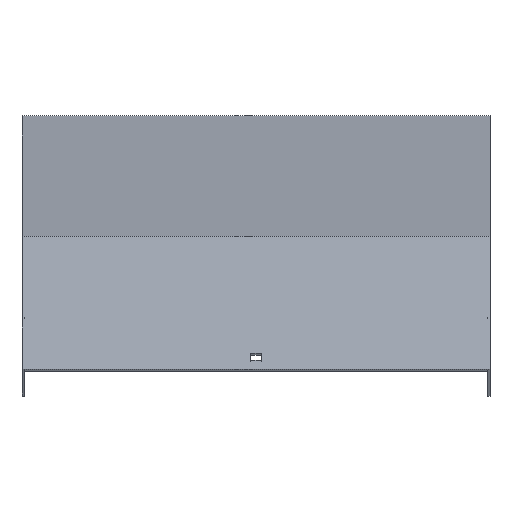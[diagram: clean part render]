
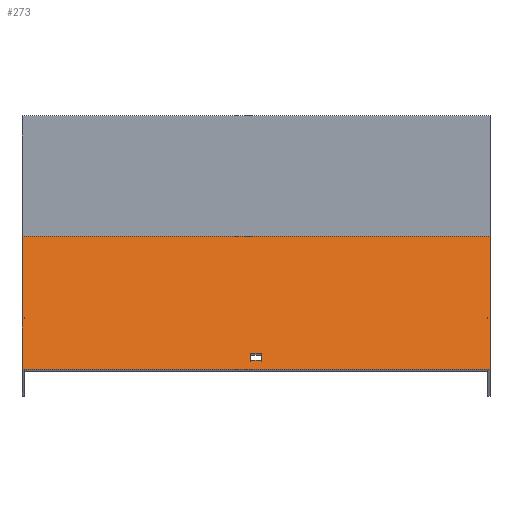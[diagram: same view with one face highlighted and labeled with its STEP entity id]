
A CAD part, top view. The second image highlights one B-rep face of the part: STEP entity #273.
In plain terms, the highlighted planar face has unit normal (0, 0.866, 0.5).
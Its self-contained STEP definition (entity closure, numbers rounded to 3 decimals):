
#3 = EDGE_LOOP ( 'NONE', ( #331, #562, #342, #140 ) ) ;
#8 = LINE ( 'NONE', #589, #789 ) ;
#36 = CARTESIAN_POINT ( 'NONE',  ( 3.25, -59.808, 467.846 ) ) ;
#51 = EDGE_CURVE ( 'NONE', #227, #126, #8, .T. ) ;
#120 = CARTESIAN_POINT ( 'NONE',  ( 151.5, -59.808, 467.846 ) ) ;
#126 = VERTEX_POINT ( 'NONE', #679 ) ;
#140 = ORIENTED_EDGE ( 'NONE', *, *, #614, .T. ) ;
#155 = VERTEX_POINT ( 'NONE', #547 ) ;
#162 = CARTESIAN_POINT ( 'NONE',  ( -3.25, -59.808, 467.846 ) ) ;
#172 = LINE ( 'NONE', #373, #666 ) ;
#198 = DIRECTION ( 'NONE',  ( 1., 0., 0. ) ) ;
#206 = CARTESIAN_POINT ( 'NONE',  ( -3.25, -134.308, 596.884 ) ) ;
#218 = EDGE_CURVE ( 'NONE', #225, #227, #813, .T. ) ;
#220 = DIRECTION ( 'NONE',  ( -1., 0., 0. ) ) ;
#225 = VERTEX_POINT ( 'NONE', #821 ) ;
#227 = VERTEX_POINT ( 'NONE', #292 ) ;
#254 = VECTOR ( 'NONE', #447, 1000. ) ;
#266 = DIRECTION ( 'NONE',  ( 0., -0.5, 0.866 ) ) ;
#273 = ADVANCED_FACE ( 'NONE', ( #303, #507 ), #698, .F. ) ;
#289 = EDGE_CURVE ( 'NONE', #542, #715, #563, .T. ) ;
#292 = CARTESIAN_POINT ( 'NONE',  ( -151.5, -58.491, 465.566 ) ) ;
#303 = FACE_BOUND ( 'NONE', #3, .T. ) ;
#308 = DIRECTION ( 'NONE',  ( -1., 0., 0. ) ) ;
#317 = VECTOR ( 'NONE', #220, 1000. ) ;
#331 = ORIENTED_EDGE ( 'NONE', *, *, #724, .T. ) ;
#335 = ORIENTED_EDGE ( 'NONE', *, *, #51, .T. ) ;
#341 = VECTOR ( 'NONE', #266, 1000. ) ;
#342 = ORIENTED_EDGE ( 'NONE', *, *, #289, .T. ) ;
#346 = EDGE_CURVE ( 'NONE', #455, #126, #172, .T. ) ;
#360 = DIRECTION ( 'NONE',  ( -1., 0., 0. ) ) ;
#373 = CARTESIAN_POINT ( 'NONE',  ( 151.5, -144.808, 615.07 ) ) ;
#412 = LINE ( 'NONE', #36, #341 ) ;
#426 = DIRECTION ( 'NONE',  ( 0., 0.5, -0.866 ) ) ;
#431 = EDGE_CURVE ( 'NONE', #225, #455, #716, .T. ) ;
#447 = DIRECTION ( 'NONE',  ( 0., -0.5, 0.866 ) ) ;
#455 = VERTEX_POINT ( 'NONE', #855 ) ;
#458 = CARTESIAN_POINT ( 'NONE',  ( 151.5, -134.308, 596.884 ) ) ;
#507 = FACE_OUTER_BOUND ( 'NONE', #608, .T. ) ;
#511 = CARTESIAN_POINT ( 'NONE',  ( 151.5, -59.808, 467.846 ) ) ;
#526 = VECTOR ( 'NONE', #198, 1000. ) ;
#536 = AXIS2_PLACEMENT_3D ( 'NONE', #511, #578, #832 ) ;
#542 = VERTEX_POINT ( 'NONE', #645 ) ;
#547 = CARTESIAN_POINT ( 'NONE',  ( 3.25, -134.308, 596.884 ) ) ;
#553 = ORIENTED_EDGE ( 'NONE', *, *, #218, .T. ) ;
#556 = LINE ( 'NONE', #162, #778 ) ;
#562 = ORIENTED_EDGE ( 'NONE', *, *, #656, .T. ) ;
#563 = LINE ( 'NONE', #702, #566 ) ;
#566 = VECTOR ( 'NONE', #360, 1000. ) ;
#573 = LINE ( 'NONE', #458, #526 ) ;
#578 = DIRECTION ( 'NONE',  ( 0., -0.866, -0.5 ) ) ;
#589 = CARTESIAN_POINT ( 'NONE',  ( -151.5, -59.808, 467.846 ) ) ;
#599 = ORIENTED_EDGE ( 'NONE', *, *, #431, .F. ) ;
#608 = EDGE_LOOP ( 'NONE', ( #335, #701, #599, #553 ) ) ;
#614 = EDGE_CURVE ( 'NONE', #715, #747, #556, .T. ) ;
#642 = CARTESIAN_POINT ( 'NONE',  ( -3.25, -138.808, 604.678 ) ) ;
#645 = CARTESIAN_POINT ( 'NONE',  ( 3.25, -138.808, 604.678 ) ) ;
#656 = EDGE_CURVE ( 'NONE', #155, #542, #412, .T. ) ;
#666 = VECTOR ( 'NONE', #308, 1000. ) ;
#679 = CARTESIAN_POINT ( 'NONE',  ( -151.5, -144.808, 615.07 ) ) ;
#698 = PLANE ( 'NONE',  #536 ) ;
#701 = ORIENTED_EDGE ( 'NONE', *, *, #346, .F. ) ;
#702 = CARTESIAN_POINT ( 'NONE',  ( 151.5, -138.808, 604.678 ) ) ;
#715 = VERTEX_POINT ( 'NONE', #642 ) ;
#716 = LINE ( 'NONE', #120, #254 ) ;
#724 = EDGE_CURVE ( 'NONE', #747, #155, #573, .T. ) ;
#747 = VERTEX_POINT ( 'NONE', #206 ) ;
#778 = VECTOR ( 'NONE', #426, 1000. ) ;
#789 = VECTOR ( 'NONE', #799, 1000. ) ;
#799 = DIRECTION ( 'NONE',  ( 0., -0.5, 0.866 ) ) ;
#813 = LINE ( 'NONE', #816, #317 ) ;
#816 = CARTESIAN_POINT ( 'NONE',  ( 151.5, -58.491, 465.566 ) ) ;
#821 = CARTESIAN_POINT ( 'NONE',  ( 151.5, -58.491, 465.566 ) ) ;
#832 = DIRECTION ( 'NONE',  ( 0., 0.5, -0.866 ) ) ;
#855 = CARTESIAN_POINT ( 'NONE',  ( 151.5, -144.808, 615.07 ) ) ;
